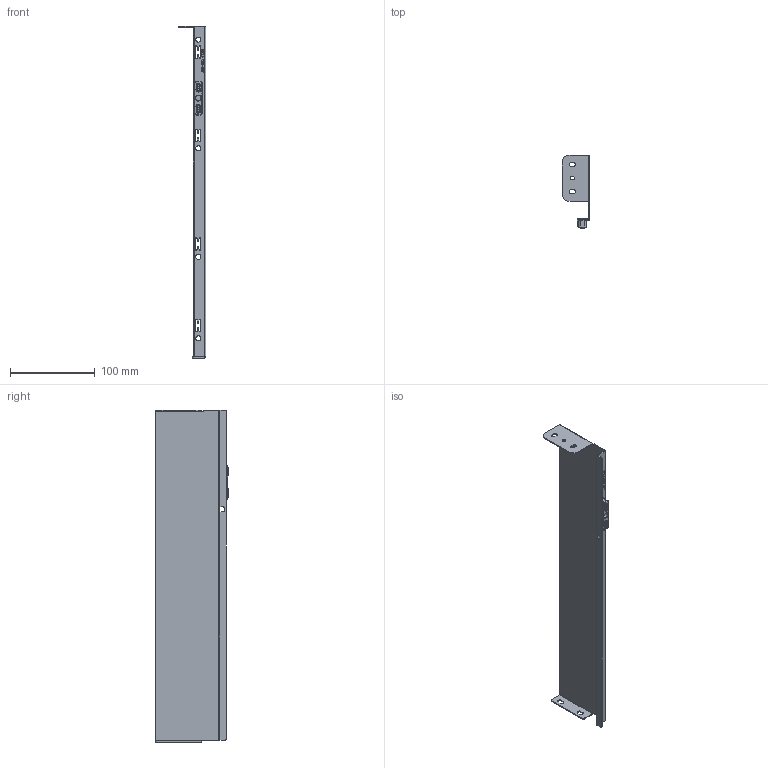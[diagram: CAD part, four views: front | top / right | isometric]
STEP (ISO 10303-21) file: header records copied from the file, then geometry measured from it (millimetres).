
FILE_DESCRIPTION (( 'STEP AP214' ), '1' );
FILE_NAME ('HL11400R.STEP', '2021-07-31T00:31:50', ( 'Users' ), ( 'Microsoft' ), 'SwSTEP 2.0', 'SolidWorks 2018', '' );
FILE_SCHEMA (( 'AUTOMOTIVE_DESIGN' ));
Length unit declared in the file: millimetre
Products named in the file (1): HL11400R
Bounding box: 32.6 x 86.7 x 391.2 mm (x, y, z)
Volume: 50583.1 mm3; surface area: 82797.7 mm2
Topology: 1 solids, 1 shells, 429 faces, 1161 edges, 752 vertices
Faces by surface type: plane 168, cylinder 163, torus 55, bspline 41, cone 2
Entity records: 15856 total; most frequent: CARTESIAN_POINT 4882, ORIENTED_EDGE 2314, DIRECTION 2292, EDGE_CURVE 1157, AXIS2_PLACEMENT_3D 832, VERTEX_POINT 752, VECTOR 628, LINE 628
